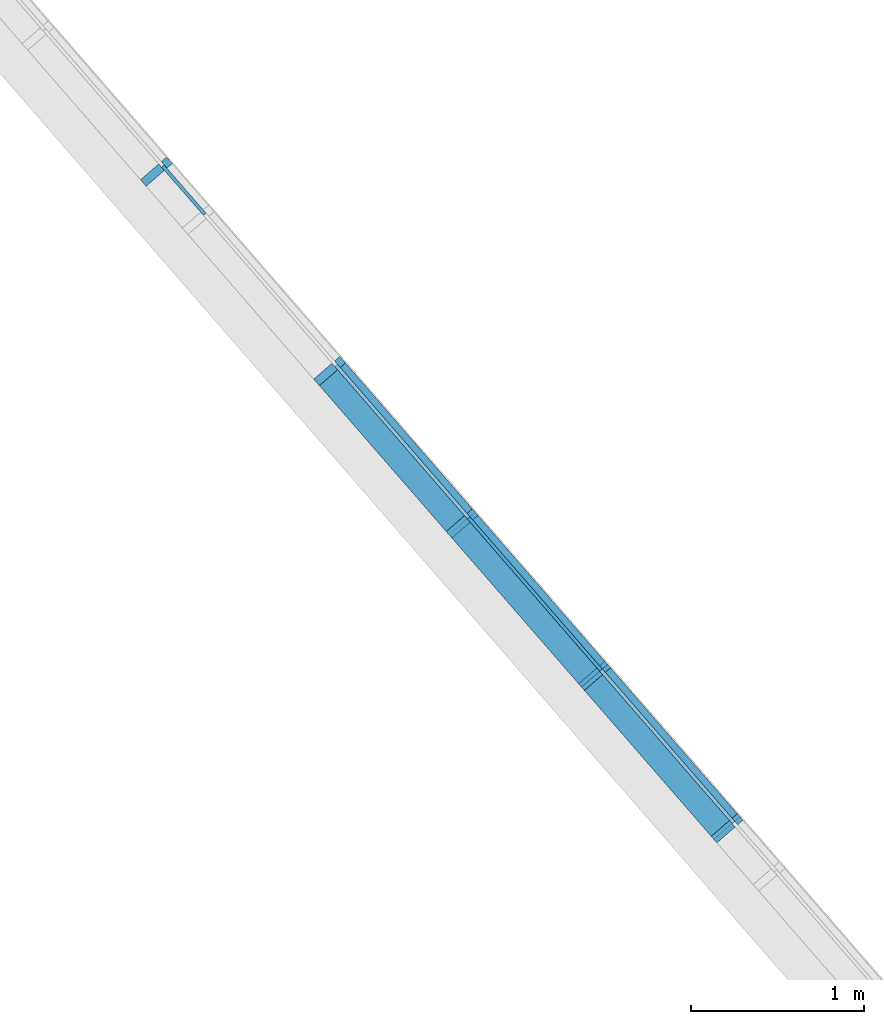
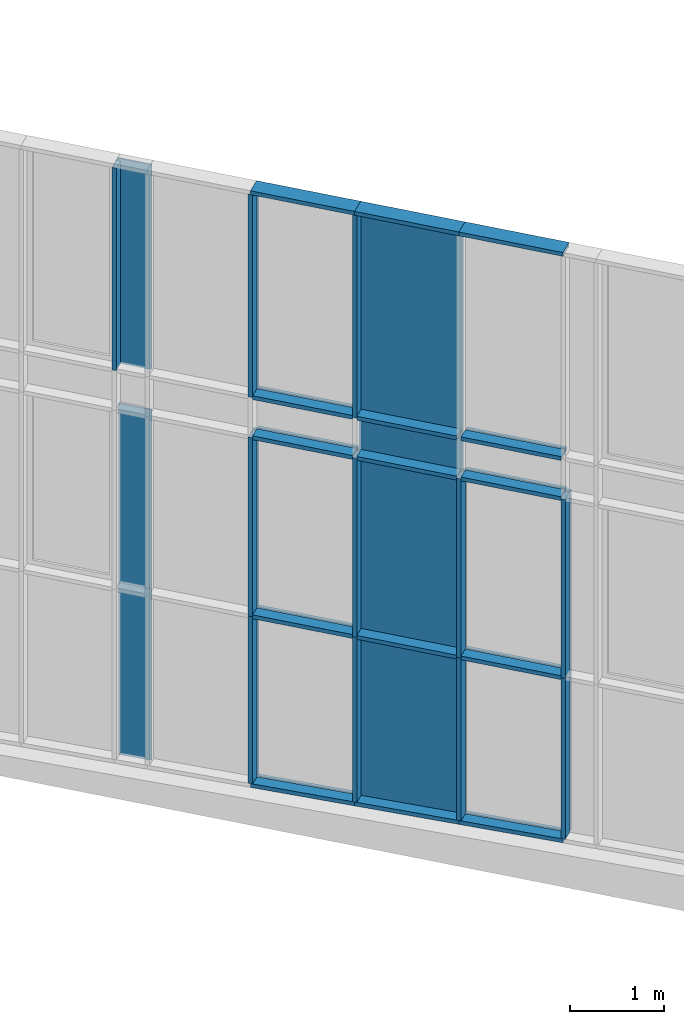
# One storey, part 50 of 390: 33 discrete accessories, 1 element without a shape of its own.
"""IFC2X3 building model written with IfcOpenShell, lengths in millimetres."""

from ifc_helpers import new_model, entity, si_unit, converted_unit, derived_unit, money_unit, direction, frame, origin_with_axes, place, context, subcontext, project, spatial, polyline, outline, extrude, clip, halfspace, material, material_list, type_object, element, aggregate, save


model = new_model("IFC2X3")

# Units and contexts
model_context = context("Model", 3, precision=1e-05, world=origin_with_axes(), true_north=direction((0.0, 1.0)))
body_context = subcontext(model_context, "Body", "Model", "MODEL_VIEW")
ifc_project = project(units=[si_unit("LENGTHUNIT", "METRE", prefix="MILLI"), si_unit("AREAUNIT", "SQUARE_METRE"), si_unit("VOLUMEUNIT", "CUBIC_METRE"), converted_unit("PLANEANGLEUNIT", "DEGREE", entity("IfcPlaneAngleMeasure", 0.0174532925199), si_unit("PLANEANGLEUNIT", "RADIAN"), dimensions=[0, 0, 0, 0, 0, 0, 0]), si_unit("SOLIDANGLEUNIT", "STERADIAN"), money_unit("EUR"), converted_unit("TIMEUNIT", "Year", entity("IfcTimeMeasure", 31556926.0), si_unit("TIMEUNIT", "SECOND"), dimensions=[0, 0, 1, 0, 0, 0, 0]), si_unit("MASSUNIT", "GRAM", prefix="KILO"), si_unit("THERMODYNAMICTEMPERATUREUNIT", "DEGREE_CELSIUS"), si_unit("LUMINOUSINTENSITYUNIT", "LUMEN"), si_unit("ENERGYUNIT", "JOULE", prefix="MEGA"), derived_unit("THERMALCONDUCTANCEUNIT", [(si_unit("POWERUNIT", "WATT"), 1), (si_unit("LENGTHUNIT", "METRE"), -1), (si_unit("THERMODYNAMICTEMPERATUREUNIT", "KELVIN"), -1)]), derived_unit("SPECIFICHEATCAPACITYUNIT", [(si_unit("ENERGYUNIT", "JOULE"), 1), (si_unit("MASSUNIT", "GRAM", prefix="KILO"), -1), (si_unit("THERMODYNAMICTEMPERATUREUNIT", "KELVIN"), -1)]), derived_unit("MASSDENSITYUNIT", [(si_unit("MASSUNIT", "GRAM", prefix="KILO"), 1), (si_unit("VOLUMEUNIT", "CUBIC_METRE"), -1)])], contexts=[model_context])

# Site, building, storey
site_placement = place(None, origin_with_axes())
site = spatial("IfcSite", under=ifc_project, at=site_placement, Name="Site", CompositionType="ELEMENT")
building_placement = place(site_placement, origin_with_axes())
building = spatial("IfcBuilding", under=site, at=building_placement, Name="Building", CompositionType="ELEMENT")
storey_placement = place(building_placement, origin_with_axes())
storey = spatial("IfcBuildingStorey", under=building, at=storey_placement, Name="1 korrus", CompositionType="ELEMENT", Elevation=0.0)

# Curtain wall, discrete accessories
curtain_wall_type = type_object("IfcCurtainWallType", Name="KLF-17", PredefinedType="NOTDEFINED")
curtain_wall_placement = place(storey_placement, frame((175630.823927, 104534.758561, -0.000216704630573), z_axis=(0.0, 0.0, 1.0), x_axis=(1.0, 0.0, 0.0)))
curtain_wall = element("IfcCurtainWall", 1, at=curtain_wall_placement, inside=storey, type_object=curtain_wall_type, Name="Klaasfassaad")
ifc_material_1 = material(Name="Klaas")
discrete_accessory_type_1 = type_object("IfcDiscreteAccessoryType", Name="370 x 2655 x 20")
discrete_accessory_1_placement = place(curtain_wall_placement, frame((-4667.85999126, 5369.75866329, 6577.50341211), z_axis=(0.0, 0.0, 1.0), x_axis=(-0.65605902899, 0.754709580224, 0.0)))
discrete_accessory_1 = element("IfcDiscreteAccessory", 2, at=discrete_accessory_1_placement, type_object=discrete_accessory_type_1, material=ifc_material_1, Name="KLF-17 klaaspakett", context=body_context, shape_type="SweptSolid", body=[
    extrude(outline(polyline([(-185.000030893, -1317.50318898), (184.999988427, -1317.50318898), (184.999988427, 1337.50319541), (-184.999991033, 1337.50319541), (-185.000030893, -1317.50318898)])), frame((0.0, -9.99999999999, 0.0), z_axis=(0.0, 1.0, 0.0), x_axis=(1.0, 0.0, 0.0)), (0.0, 0.0, 1.0), 20.0),
])
discrete_accessory_type_2 = type_object("IfcDiscreteAccessoryType", Name="1170 x 2655 x 20")
discrete_accessory_2_placement = place(curtain_wall_placement, frame((-2634.07700139, 3030.1589646, 6577.50341211), z_axis=(0.0, 0.0, 1.0), x_axis=(-0.65605902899, 0.754709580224, 0.0)))
discrete_accessory_2 = element("IfcDiscreteAccessory", 3, at=discrete_accessory_2_placement, type_object=discrete_accessory_type_2, material=ifc_material_1, Name="KLF-17 klaaspakett", context=body_context, shape_type="SweptSolid", body=[
    extrude(outline(polyline([(-585.000009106, -1317.50318898), (584.999988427, -1317.50318898), (584.999988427, 1337.50319541), (-585.000009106, 1337.50319541), (-585.000009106, -1317.50318898)])), frame((0.0, -9.99999999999, 0.0), z_axis=(0.0, 1.0, 0.0), x_axis=(1.0, 0.0, 0.0)), (0.0, 0.0, 1.0), 20.0000000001),
])
discrete_accessory_type_3 = type_object("IfcDiscreteAccessoryType", Name="1170 x 2169 x 20")
discrete_accessory_3_placement = place(curtain_wall_placement, frame((-2634.07700139, 3030.1589646, 1312.40184935), z_axis=(0.0, 0.0, 1.0), x_axis=(-0.65605902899, 0.754709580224, 0.0)))
discrete_accessory_3 = element("IfcDiscreteAccessory", 4, at=discrete_accessory_3_placement, type_object=discrete_accessory_type_3, material=ifc_material_1, Name="KLF-17 klaaspakett", context=body_context, shape_type="SweptSolid", body=[
    extrude(outline(polyline([(-585.000015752, -1087.59836735), (584.999993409, -1087.59836735), (584.999993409, 1081.24569991), (-584.999983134, 1053.94014949), (-585.000015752, -1087.59836735)])), frame((0.0, -9.99999999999, 0.0), z_axis=(0.0, 1.0, 0.0), x_axis=(1.0, 0.0, 0.0)), (0.0, 0.0, 1.0), 20.0),
])
discrete_accessory_type_4 = type_object("IfcDiscreteAccessoryType", Name="370 x 2232 x 20")
discrete_accessory_4_placement = place(curtain_wall_placement, frame((-4667.85999126, 5369.75866329, 1276.22756294), z_axis=(0.0, 0.0, 1.0), x_axis=(-0.65605902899, 0.754709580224, 0.0)))
discrete_accessory_4 = element("IfcDiscreteAccessory", 5, at=discrete_accessory_4_placement, type_object=discrete_accessory_type_4, material=ifc_material_1, Name="KLF-17 klaaspakett", context=body_context, shape_type="SweptSolid", body=[
    extrude(outline(polyline([(-185.000012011, -1123.77265948), (184.999985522, -1123.77265948), (184.999985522, 1108.08491039), (-184.999978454, 1099.44954982), (-185.000012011, -1123.77265948)])), frame((0.0, -9.99999999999, 0.0), z_axis=(0.0, 1.0, 0.0), x_axis=(1.0, 0.0, 0.0)), (0.0, 0.0, 1.0), 20.0),
])
discrete_accessory_type_5 = type_object("IfcDiscreteAccessoryType", Name="1170 x 2320 x 20")
discrete_accessory_5_placement = place(curtain_wall_placement, frame((-2634.07700139, 3030.1589646, 3560.0002167), z_axis=(0.0, 0.0, 1.0), x_axis=(-0.65605902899, 0.754709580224, 0.0)))
discrete_accessory_5 = element("IfcDiscreteAccessory", 6, at=discrete_accessory_5_placement, type_object=discrete_accessory_type_5, material=ifc_material_1, Name="KLF-17 klaaspakett", context=body_context, shape_type="SweptSolid", body=[
    extrude(outline(polyline([(-584.999996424, -1160.0), (585.000001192, -1160.0), (585.000001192, 1160.0), (-584.999996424, 1160.0), (-584.999996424, -1160.0)])), frame((0.0, -9.99999999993, 0.0), z_axis=(0.0, 1.0, 0.0), x_axis=(1.0, 0.0, 0.0)), (0.0, 0.0, 1.0), 20.0),
])
discrete_accessory_type_6 = type_object("IfcDiscreteAccessoryType", Name="370 x 2320 x 20")
discrete_accessory_6_placement = place(curtain_wall_placement, frame((-4667.85999126, 5369.75866329, 3560.0002167), z_axis=(0.0, 0.0, 1.0), x_axis=(-0.65605902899, 0.754709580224, 0.0)))
discrete_accessory_6 = element("IfcDiscreteAccessory", 7, at=discrete_accessory_6_placement, type_object=discrete_accessory_type_6, material=ifc_material_1, Name="KLF-17 klaaspakett", context=body_context, shape_type="SweptSolid", body=[
    extrude(outline(polyline([(-185.000014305, -1160.0), (185.000001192, -1160.0), (185.000001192, 1160.0), (-185.000014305, 1160.0), (-185.000014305, -1160.0)])), frame((0.0, -9.99999999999, 0.0), z_axis=(0.0, 1.0, 0.0), x_axis=(1.0, 0.0, 0.0)), (0.0, 0.0, 1.0), 20.0),
])
discrete_accessory_type_7 = type_object("IfcDiscreteAccessoryType", Name="1170 x 520 x 20")
discrete_accessory_7_placement = place(curtain_wall_placement, frame((-2634.07700139, 3030.1589646, 4980.0002167), z_axis=(0.0, 0.0, 1.0), x_axis=(-0.65605902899, 0.754709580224, 0.0)))
discrete_accessory_7 = element("IfcDiscreteAccessory", 8, at=discrete_accessory_7_placement, type_object=discrete_accessory_type_7, material=ifc_material_1, Name="KLF-17 klaaspakett", context=body_context, shape_type="SweptSolid", body=[
    extrude(outline(polyline([(-585.000006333, -259.999991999), (585.000006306, -260.000009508), (585.000006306, 260.0), (-585.000006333, 260.0), (-585.000006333, -259.999991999)])), frame((0.0, -9.99999999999, 0.0), z_axis=(0.0, 1.0, 0.0), x_axis=(1.0, 0.0, 0.0)), (0.0, 0.0, 1.0), 20.0),
])
ifc_material_2 = material(Name="Aluminium MUST")
ifc_material_list = material_list([ifc_material_2, ifc_material_2])
discrete_accessory_type_8 = type_object("IfcDiscreteAccessoryType", Name="50 x 200")
discrete_accessory_8_placement = place(curtain_wall_placement, frame((-4789.23091162, 5509.37993563, 5240.0002167), z_axis=(0.0, 0.0, 1.0), x_axis=(-0.65605902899, 0.754709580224, 0.0)))
discrete_accessory_8 = element("IfcDiscreteAccessory", 9, at=discrete_accessory_8_placement, type_object=discrete_accessory_type_8, material=ifc_material_list, Name="KLF-17 profiil", context=body_context, shape_type="SweptSolid", body=[
    extrude(outline(polyline([(-129.607912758, -79.5411148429), (-96.8049613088, -117.276593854), (8.8543799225, -25.4283297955), (-23.948571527, 12.3071492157), (-129.607912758, -79.5411148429)])), frame((0.0, 0.0, 0.0), z_axis=(0.0, 0.0, 1.0), x_axis=(-0.65605902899, -0.754709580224, 0.0)), (0.0, 0.0, 1.0), 2625.00639082),
    extrude(outline(polyline([(54.1369547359, 13.9352119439), (21.3340032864, 51.6706909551), (-8.8543799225, 25.4283297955), (23.948571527, -12.3071492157), (54.1369547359, 13.9352119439)])), frame((0.0, 0.0, 0.0), z_axis=(0.0, 0.0, 1.0), x_axis=(-0.65605902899, -0.754709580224, 0.0)), (0.0, 0.0, 1.0), 2625.00639082),
])
discrete_accessory_9_placement = place(curtain_wall_placement, frame((-3017.87153335, 3471.66406903, 5240.0002167), z_axis=(0.0, 0.0, 1.0), x_axis=(-0.65605902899, 0.754709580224, 0.0)))
discrete_accessory_9 = element("IfcDiscreteAccessory", 10, at=discrete_accessory_9_placement, type_object=discrete_accessory_type_8, material=ifc_material_list, Name="KLF-17 profiil", context=body_context, shape_type="SweptSolid", body=[
    extrude(outline(polyline([(-129.607912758, -79.5411148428), (-96.8049613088, -117.276593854), (8.8543799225, -25.4283297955), (-23.948571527, 12.3071492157), (-129.607912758, -79.5411148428)])), frame((0.0, 0.0, 0.0), z_axis=(0.0, 0.0, 1.0), x_axis=(-0.65605902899, -0.754709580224, 0.0)), (0.0, 0.0, 1.0), 2625.00639082),
    extrude(outline(polyline([(54.1369547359, 13.9352119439), (21.3340032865, 51.6706909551), (-8.8543799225, 25.4283297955), (23.948571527, -12.3071492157), (54.1369547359, 13.9352119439)])), frame((0.0, 0.0, 0.0), z_axis=(0.0, 0.0, 1.0), x_axis=(-0.65605902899, -0.754709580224, 0.0)), (0.0, 0.0, 1.0), 2625.00639082),
])
discrete_accessory_10_placement = place(curtain_wall_placement, frame((-3785.46059727, 4354.67427789, 5240.0002167), z_axis=(0.0, 0.0, 1.0), x_axis=(-0.65605902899, 0.754709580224, 0.0)))
discrete_accessory_10 = element("IfcDiscreteAccessory", 11, at=discrete_accessory_10_placement, type_object=discrete_accessory_type_8, material=ifc_material_list, Name="KLF-17 profiil", context=body_context, shape_type="SweptSolid", body=[
    extrude(outline(polyline([(-129.607912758, -79.5411148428), (-96.8049613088, -117.276593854), (8.8543799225, -25.4283297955), (-23.948571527, 12.3071492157), (-129.607912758, -79.5411148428)])), frame((0.0, 0.0, 0.0), z_axis=(0.0, 0.0, 1.0), x_axis=(-0.65605902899, -0.754709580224, 0.0)), (0.0, 0.0, 1.0), 2625.00639082),
    extrude(outline(polyline([(54.1369547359, 13.9352119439), (21.3340032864, 51.670690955), (-8.8543799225, 25.4283297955), (23.9485715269, -12.3071492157), (54.1369547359, 13.9352119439)])), frame((0.0, 0.0, 0.0), z_axis=(0.0, 0.0, 1.0), x_axis=(-0.65605902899, -0.754709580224, 0.0)), (0.0, 0.0, 1.0), 2625.00639082),
])
discrete_accessory_11_placement = place(curtain_wall_placement, frame((-2250.28246943, 2588.65386017, 7915.00660752), z_axis=(0.65605902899, -0.754709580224, 0.0), x_axis=(0.0, 0.0, 1.0)))
discrete_accessory_11 = element("IfcDiscreteAccessory", 12, at=discrete_accessory_11_placement, type_object=discrete_accessory_type_8, Name="KLF-17 profiil", context=body_context, shape_type="SweptSolid", body=[
    extrude(outline(polyline([(9.99999999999, 25.0), (-9.99999999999, 25.0), (-9.99999999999, 0.0), (9.99999999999, 0.0), (9.99999999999, 25.0)])), frame((0.0, 0.0, 0.0), z_axis=(0.0, 0.0, 1.0), x_axis=(0.0, 1.0, 0.0)), (0.0, 0.0, 1.0), 1170.0),
    extrude(outline(polyline([(150.0, 50.0), (9.99999999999, 50.0), (9.99999999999, 0.0), (150.0, 0.0), (150.0, 50.0)])), frame((0.0, 0.0, 0.0), z_axis=(0.0, 0.0, 1.0), x_axis=(0.0, 1.0, 0.0)), (0.0, 0.0, 1.0), 1170.0),
    extrude(outline(polyline([(-50.0, 0.0), (-9.99999999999, 0.0), (-9.99999999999, 50.0), (-50.0, 50.0), (-50.0, 0.0)])), frame((0.0, 0.0, 0.0), z_axis=(0.0, 0.0, 1.0), x_axis=(0.0, 1.0, 0.0)), (0.0, 0.0, 1.0), 1170.0),
])
discrete_accessory_12_placement = place(curtain_wall_placement, frame((-3017.87153335, 3471.66406903, 7915.00660752), z_axis=(0.65605902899, -0.754709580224, 0.0), x_axis=(0.0, 0.0, 1.0)))
discrete_accessory_12 = element("IfcDiscreteAccessory", 13, at=discrete_accessory_12_placement, type_object=discrete_accessory_type_8, Name="KLF-17 profiil", context=body_context, shape_type="SweptSolid", body=[
    extrude(outline(polyline([(10.0, 25.0), (-9.99999999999, 25.0), (-9.99999999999, 0.0), (10.0, 0.0), (10.0, 25.0)])), frame((0.0, 0.0, 0.0), z_axis=(0.0, 0.0, 1.0), x_axis=(0.0, 1.0, 0.0)), (0.0, 0.0, 1.0), 1170.0),
    extrude(outline(polyline([(150.0, 50.0), (10.0, 50.0), (10.0, 0.0), (150.0, 0.0), (150.0, 50.0)])), frame((0.0, 0.0, 0.0), z_axis=(0.0, 0.0, 1.0), x_axis=(0.0, 1.0, 0.0)), (0.0, 0.0, 1.0), 1170.0),
    extrude(outline(polyline([(-50.0, 0.0), (-9.99999999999, 0.0), (-9.99999999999, 50.0), (-50.0, 50.0), (-50.0, 0.0)])), frame((0.0, 0.0, 0.0), z_axis=(0.0, 0.0, 1.0), x_axis=(0.0, 1.0, 0.0)), (0.0, 0.0, 1.0), 1170.0),
])
discrete_accessory_13_placement = place(curtain_wall_placement, frame((-3785.46059727, 4354.67427789, 7915.00660752), z_axis=(0.65605902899, -0.754709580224, 0.0), x_axis=(0.0, 0.0, 1.0)))
discrete_accessory_13 = element("IfcDiscreteAccessory", 14, at=discrete_accessory_13_placement, type_object=discrete_accessory_type_8, Name="KLF-17 profiil", context=body_context, shape_type="SweptSolid", body=[
    extrude(outline(polyline([(10.0, 25.0), (-10.0, 25.0), (-10.0, 0.0), (10.0, 0.0), (10.0, 25.0)])), frame((0.0, 0.0, 0.0), z_axis=(0.0, 0.0, 1.0), x_axis=(0.0, 1.0, 0.0)), (0.0, 0.0, 1.0), 1170.0),
    extrude(outline(polyline([(150.0, 50.0), (10.0, 50.0), (10.0, 0.0), (150.0, 0.0), (150.0, 50.0)])), frame((0.0, 0.0, 0.0), z_axis=(0.0, 0.0, 1.0), x_axis=(0.0, 1.0, 0.0)), (0.0, 0.0, 1.0), 1170.0),
    extrude(outline(polyline([(-50.0, 0.0), (-10.0, 0.0), (-10.0, 50.0), (-50.0, 50.0), (-50.0, 0.0)])), frame((0.0, 0.0, 0.0), z_axis=(0.0, 0.0, 1.0), x_axis=(0.0, 1.0, 0.0)), (0.0, 0.0, 1.0), 1170.0),
])
discrete_accessory_14_placement = place(curtain_wall_placement, frame((-2250.28246943, 2588.65386017, 5240.0002167), z_axis=(0.65605902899, -0.754709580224, 0.0), x_axis=(0.0, 0.0, 1.0)))
discrete_accessory_14 = element("IfcDiscreteAccessory", 15, at=discrete_accessory_14_placement, type_object=discrete_accessory_type_8, material=ifc_material_list, Name="KLF-17 profiil", context=body_context, shape_type="SweptSolid", body=[
    extrude(outline(polyline([(150.0, -25.0), (150.0, 25.0), (9.99999999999, 25.0), (9.99999999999, -25.0), (150.0, -25.0)])), frame((0.0, 0.0, 25.0), z_axis=(0.0, 0.0, 1.0), x_axis=(0.0, 1.0, 0.0)), (0.0, 0.0, 1.0), 1120.0),
    extrude(outline(polyline([(-50.0, 25.0), (-50.0, -25.0), (-10.0, -25.0), (-10.0, 25.0), (-50.0, 25.0)])), frame((0.0, 0.0, 25.0), z_axis=(0.0, 0.0, 1.0), x_axis=(0.0, 1.0, 0.0)), (0.0, 0.0, 1.0), 1120.0),
])
discrete_accessory_15_placement = place(curtain_wall_placement, frame((-3017.87153335, 3471.66406903, 5240.0002167), z_axis=(0.65605902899, -0.754709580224, 0.0), x_axis=(0.0, 0.0, 1.0)))
discrete_accessory_15 = element("IfcDiscreteAccessory", 16, at=discrete_accessory_15_placement, type_object=discrete_accessory_type_8, material=ifc_material_list, Name="KLF-17 profiil", context=body_context, shape_type="SweptSolid", body=[
    extrude(outline(polyline([(150.0, -25.0), (150.0, 25.0), (10.0, 25.0), (10.0, -25.0), (150.0, -25.0)])), frame((0.0, 0.0, 25.0), z_axis=(0.0, 0.0, 1.0), x_axis=(0.0, 1.0, 0.0)), (0.0, 0.0, 1.0), 1120.0),
    extrude(outline(polyline([(-49.9999999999, 25.0), (-49.9999999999, -25.0), (-9.99999999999, -25.0), (-9.99999999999, 25.0), (-49.9999999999, 25.0)])), frame((0.0, 0.0, 25.0), z_axis=(0.0, 0.0, 1.0), x_axis=(0.0, 1.0, 0.0)), (0.0, 0.0, 1.0), 1120.0),
])
discrete_accessory_16_placement = place(curtain_wall_placement, frame((-3785.46059727, 4354.67427789, 5240.0002167), z_axis=(0.65605902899, -0.754709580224, 0.0), x_axis=(0.0, 0.0, 1.0)))
discrete_accessory_16 = element("IfcDiscreteAccessory", 17, at=discrete_accessory_16_placement, type_object=discrete_accessory_type_8, material=ifc_material_list, Name="KLF-17 profiil", context=body_context, shape_type="SweptSolid", body=[
    extrude(outline(polyline([(150.0, -25.0), (150.0, 25.0), (9.99999999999, 25.0), (9.99999999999, -25.0), (150.0, -25.0)])), frame((0.0, 0.0, 25.0), z_axis=(0.0, 0.0, 1.0), x_axis=(0.0, 1.0, 0.0)), (0.0, 0.0, 1.0), 1120.0),
    extrude(outline(polyline([(-50.0, 25.0), (-50.0, -25.0), (-9.99999999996, -25.0), (-9.99999999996, 25.0), (-50.0, 25.0)])), frame((0.0, 0.0, 25.0), z_axis=(0.0, 0.0, 1.0), x_axis=(0.0, 1.0, 0.0)), (0.0, 0.0, 1.0), 1120.0),
])
discrete_accessory_17_placement = place(curtain_wall_placement, frame((-3785.46059727, 4354.67427789, 183.844854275), z_axis=(0.655880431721, -0.754504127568, 0.0233319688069), x_axis=(-0.0153071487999, 0.0176088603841, 0.999727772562)))
discrete_accessory_17 = element("IfcDiscreteAccessory", 18, at=discrete_accessory_17_placement, type_object=discrete_accessory_type_8, Name="KLF-17 profiil", context=body_context, shape_type="SweptSolid", body=[
    extrude(outline(polyline([(10.0, -25.0), (9.99999999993, 0.0), (-10.0, 0.0), (-10.0, -25.0), (10.0, -25.0)])), frame((0.0, 0.0, -3.80645914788e-06), z_axis=(0.0, 0.0, 1.0), x_axis=(0.0, 1.0, 0.0)), (0.0, 0.0, 1.0), 1170.31860209),
    extrude(outline(polyline([(150.0, -50.0), (150.0, 0.0), (9.99999999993, 0.0), (9.99999999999, -50.0), (150.0, -50.0)])), frame((0.0, 0.0, -3.80645914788e-06), z_axis=(0.0, 0.0, 1.0), x_axis=(0.0, 1.0, 0.0)), (0.0, 0.0, 1.0), 1170.31860209),
    extrude(outline(polyline([(-50.0, 0.0), (-50.0, -50.0), (-9.99999999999, -50.0), (-10.0, 0.0), (-50.0, 0.0)])), frame((0.0, 0.0, -3.80645914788e-06), z_axis=(0.0, 0.0, 1.0), x_axis=(0.0, 1.0, 0.0)), (0.0, 0.0, 1.0), 1170.31860209),
])
discrete_accessory_18_placement = place(curtain_wall_placement, frame((-3785.46059727, 4354.67427789, 183.844854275), z_axis=(0.0, 0.0, 1.0), x_axis=(-0.65605902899, 0.754709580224, 0.0)))
discrete_accessory_18 = element("IfcDiscreteAccessory", 19, at=discrete_accessory_18_placement, type_object=discrete_accessory_type_8, material=ifc_material_list, Name="KLF-17 profiil", context=body_context, shape_type="Clipping", body=[
    clip(extrude(outline(polyline([(-129.607912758, -79.5411148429), (-96.8049613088, -117.276593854), (8.85437992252, -25.4283297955), (-23.948571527, 12.3071492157), (-129.607912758, -79.5411148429)])), frame((0.0, 0.0, 49.4301606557), z_axis=(0.0, 0.0, 1.0), x_axis=(-0.65605902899, -0.754709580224, 0.0)), (0.0, 0.0, 1.0), 2166.72520177), halfspace(frame((1.16659082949, 0.0, 49.9863888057), z_axis=(0.0233318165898, 0.0, 0.999727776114), x_axis=(0.0, -1.0, 0.0)), True)),
    clip(extrude(outline(polyline([(54.1369547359, 13.9352119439), (21.3340032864, 51.6706909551), (-8.8543799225, 25.4283297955), (23.948571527, -12.3071492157), (54.1369547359, 13.9352119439)])), frame((0.0, 0.0, 49.4301606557), z_axis=(0.0, 0.0, 1.0), x_axis=(-0.65605902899, -0.754709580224, 0.0)), (0.0, 0.0, 1.0), 2166.72520177), halfspace(frame((1.16659082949, 0.0, 49.9863888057), z_axis=(0.0233318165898, 0.0, 0.999727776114), x_axis=(0.0, -1.0, 0.0)), True)),
])
discrete_accessory_19_placement = place(curtain_wall_placement, frame((-2250.28246943, 2588.65386017, 238.456272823), z_axis=(0.655880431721, -0.754504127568, 0.0233319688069), x_axis=(-0.0153071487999, 0.0176088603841, 0.999727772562)))
discrete_accessory_19 = element("IfcDiscreteAccessory", 20, at=discrete_accessory_19_placement, type_object=discrete_accessory_type_8, Name="KLF-17 profiil", context=body_context, shape_type="SweptSolid", body=[
    extrude(outline(polyline([(9.99999999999, -25.0), (9.99999999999, 0.0), (-9.99999999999, 0.0), (-9.99999999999, -25.0), (9.99999999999, -25.0)])), frame((0.0, 0.0, -5.45125544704e-06), z_axis=(0.0, 0.0, 1.0), x_axis=(0.0, 1.0, 0.0)), (0.0, 0.0, 1.0), 1170.31860491),
    extrude(outline(polyline([(150.0, -50.0), (150.0, 0.0), (9.99999999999, 0.0), (9.99999999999, -50.0), (150.0, -50.0)])), frame((0.0, 0.0, -5.45125544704e-06), z_axis=(0.0, 0.0, 1.0), x_axis=(0.0, 1.0, 0.0)), (0.0, 0.0, 1.0), 1170.31860491),
    extrude(outline(polyline([(-50.0, 0.0), (-50.0, -50.0), (-10.0, -50.0), (-9.99999999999, 0.0), (-50.0, 0.0)])), frame((0.0, 0.0, -5.45125544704e-06), z_axis=(0.0, 0.0, 1.0), x_axis=(0.0, 1.0, 0.0)), (0.0, 0.0, 1.0), 1170.31860491),
])
discrete_accessory_20_placement = place(curtain_wall_placement, frame((-3017.87153335, 3471.66406903, 211.150691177), z_axis=(0.0, 0.0, 1.0), x_axis=(-0.65605902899, 0.754709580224, 0.0)))
discrete_accessory_20 = element("IfcDiscreteAccessory", 21, at=discrete_accessory_20_placement, type_object=discrete_accessory_type_8, material=ifc_material_list, Name="KLF-17 profiil", context=body_context, shape_type="Clipping", body=[
    clip(extrude(outline(polyline([(-129.607912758, -79.5411148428), (-96.8049613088, -117.276593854), (8.8543799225, -25.4283297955), (-23.948571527, 12.3071492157), (-129.607912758, -79.5411148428)])), frame((0.0, 0.0, 49.4301570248), z_axis=(0.0, 0.0, 1.0), x_axis=(-0.65605902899, -0.754709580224, 0.0)), (0.0, 0.0, 1.0), 2139.4193685), halfspace(frame((1.16659844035, 0.0, 49.9863886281), z_axis=(0.0233319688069, 0.0, 0.999727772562), x_axis=(0.0, -1.0, 0.0)), True)),
    clip(extrude(outline(polyline([(54.1369547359, 13.9352119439), (21.3340032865, 51.6706909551), (-8.8543799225, 25.4283297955), (23.948571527, -12.3071492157), (54.1369547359, 13.9352119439)])), frame((0.0, 0.0, 49.4301570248), z_axis=(0.0, 0.0, 1.0), x_axis=(-0.65605902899, -0.754709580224, 0.0)), (0.0, 0.0, 1.0), 2139.4193685), halfspace(frame((1.16659844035, 0.0, 49.9863886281), z_axis=(0.0233319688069, 0.0, 0.999727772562), x_axis=(0.0, -1.0, 0.0)), True)),
])
discrete_accessory_21_placement = place(curtain_wall_placement, frame((-2250.28246943, 2588.65386017, 238.456272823), z_axis=(0.0, 0.0, 1.0), x_axis=(-0.65605902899, 0.754709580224, 0.0)))
discrete_accessory_21 = element("IfcDiscreteAccessory", 22, at=discrete_accessory_21_placement, type_object=discrete_accessory_type_8, material=ifc_material_list, Name="KLF-17 profiil", context=body_context, shape_type="Clipping", body=[
    clip(extrude(outline(polyline([(-129.607912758, -79.5411148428), (-96.8049613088, -117.276593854), (8.8543799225, -25.4283297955), (-23.948571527, 12.3071492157), (-129.607912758, -79.5411148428)])), frame((0.0, 0.0, 49.4301622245), z_axis=(0.0, 0.0, 1.0), x_axis=(-0.65605902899, -0.754709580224, 0.0)), (0.0, 0.0, 1.0), 2112.11378166), halfspace(frame((1.16658754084, 0.0, 49.9863888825), z_axis=(0.0233317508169, 0.0, 0.999727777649), x_axis=(0.0, -1.0, 0.0)), True)),
    clip(extrude(outline(polyline([(54.1369547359, 13.9352119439), (21.3340032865, 51.6706909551), (-8.85437992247, 25.4283297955), (23.948571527, -12.3071492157), (54.1369547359, 13.9352119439)])), frame((0.0, 0.0, 49.4301622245), z_axis=(0.0, 0.0, 1.0), x_axis=(-0.65605902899, -0.754709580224, 0.0)), (0.0, 0.0, 1.0), 2112.11378166), halfspace(frame((1.16658754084, 0.0, 49.9863888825), z_axis=(0.0233317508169, 0.0, 0.999727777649), x_axis=(0.0, -1.0, 0.0)), True)),
])
discrete_accessory_22_placement = place(curtain_wall_placement, frame((-1482.69340552, 1705.64365131, 265.762109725), z_axis=(0.0, 0.0, 1.0), x_axis=(-0.65605902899, 0.754709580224, 0.0)))
discrete_accessory_22 = element("IfcDiscreteAccessory", 23, at=discrete_accessory_22_placement, type_object=discrete_accessory_type_8, material=ifc_material_list, Name="KLF-17 profiil", context=body_context, shape_type="Clipping", body=[
    clip(extrude(outline(polyline([(-129.607912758, -79.5411148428), (-96.8049613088, -117.276593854), (8.85437992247, -25.4283297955), (-23.948571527, 12.3071492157), (-129.607912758, -79.5411148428)])), frame((0.0, 0.0, 49.4301570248), z_axis=(0.0, 0.0, 1.0), x_axis=(-0.65605902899, -0.754709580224, 0.0)), (0.0, 0.0, 1.0), 2084.80794996), halfspace(frame((1.16659844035, 0.0, 49.9863886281), z_axis=(0.0233319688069, 0.0, 0.999727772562), x_axis=(0.0, -1.0, 0.0)), True)),
    clip(extrude(outline(polyline([(54.1369547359, 13.9352119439), (21.3340032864, 51.6706909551), (-8.85437992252, 25.4283297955), (23.948571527, -12.3071492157), (54.1369547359, 13.9352119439)])), frame((0.0, 0.0, 49.4301570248), z_axis=(0.0, 0.0, 1.0), x_axis=(-0.65605902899, -0.754709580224, 0.0)), (0.0, 0.0, 1.0), 2084.80794996), halfspace(frame((1.16659844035, 0.0, 49.9863886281), z_axis=(0.0233319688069, 0.0, 0.999727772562), x_axis=(0.0, -1.0, 0.0)), True)),
])
discrete_accessory_23_placement = place(curtain_wall_placement, frame((-1482.69340552, 1705.64365131, 2400.0002167), z_axis=(0.0, 0.0, 1.0), x_axis=(-0.65605902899, 0.754709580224, 0.0)))
discrete_accessory_23 = element("IfcDiscreteAccessory", 24, at=discrete_accessory_23_placement, type_object=discrete_accessory_type_8, material=ifc_material_list, Name="KLF-17 profiil", context=body_context, shape_type="SweptSolid", body=[
    extrude(outline(polyline([(-129.607912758, -79.5411148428), (-96.8049613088, -117.276593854), (8.85437992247, -25.4283297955), (-23.948571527, 12.3071492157), (-129.607912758, -79.5411148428)])), frame((0.0, 0.0, 0.0), z_axis=(0.0, 0.0, 1.0), x_axis=(-0.65605902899, -0.754709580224, 0.0)), (0.0, 0.0, 1.0), 2320.0),
    extrude(outline(polyline([(54.1369547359, 13.9352119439), (21.3340032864, 51.6706909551), (-8.85437992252, 25.4283297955), (23.948571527, -12.3071492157), (54.1369547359, 13.9352119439)])), frame((0.0, 0.0, 0.0), z_axis=(0.0, 0.0, 1.0), x_axis=(-0.65605902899, -0.754709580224, 0.0)), (0.0, 0.0, 1.0), 2320.0),
])
discrete_accessory_24_placement = place(curtain_wall_placement, frame((-2250.28246943, 2588.65386017, 4720.0002167), z_axis=(0.65605902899, -0.754709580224, 0.0), x_axis=(0.0, 0.0, 1.0)))
discrete_accessory_24 = element("IfcDiscreteAccessory", 25, at=discrete_accessory_24_placement, type_object=discrete_accessory_type_8, material=ifc_material_list, Name="KLF-17 profiil", context=body_context, shape_type="SweptSolid", body=[
    extrude(outline(polyline([(150.0, -25.0), (150.0, 25.0), (9.99999999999, 25.0), (9.99999999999, -25.0), (150.0, -25.0)])), frame((0.0, 0.0, 25.0), z_axis=(0.0, 0.0, 1.0), x_axis=(0.0, 1.0, 0.0)), (0.0, 0.0, 1.0), 1120.0),
    extrude(outline(polyline([(-50.0, 25.0), (-50.0, -25.0), (-10.0, -25.0), (-10.0, 25.0), (-50.0, 25.0)])), frame((0.0, 0.0, 25.0), z_axis=(0.0, 0.0, 1.0), x_axis=(0.0, 1.0, 0.0)), (0.0, 0.0, 1.0), 1120.0),
])
discrete_accessory_25_placement = place(curtain_wall_placement, frame((-3017.87153335, 3471.66406903, 4720.0002167), z_axis=(0.65605902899, -0.754709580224, 0.0), x_axis=(0.0, 0.0, 1.0)))
discrete_accessory_25 = element("IfcDiscreteAccessory", 26, at=discrete_accessory_25_placement, type_object=discrete_accessory_type_8, material=ifc_material_list, Name="KLF-17 profiil", context=body_context, shape_type="SweptSolid", body=[
    extrude(outline(polyline([(150.0, -25.0), (150.0, 25.0), (10.0, 25.0), (10.0, -25.0), (150.0, -25.0)])), frame((0.0, 0.0, 25.0), z_axis=(0.0, 0.0, 1.0), x_axis=(0.0, 1.0, 0.0)), (0.0, 0.0, 1.0), 1120.0),
    extrude(outline(polyline([(-49.9999999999, 25.0), (-49.9999999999, -25.0), (-9.99999999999, -25.0), (-9.99999999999, 25.0), (-49.9999999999, 25.0)])), frame((0.0, 0.0, 25.0), z_axis=(0.0, 0.0, 1.0), x_axis=(0.0, 1.0, 0.0)), (0.0, 0.0, 1.0), 1120.0),
])
discrete_accessory_26_placement = place(curtain_wall_placement, frame((-3785.46059727, 4354.67427789, 4720.0002167), z_axis=(0.65605902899, -0.754709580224, 0.0), x_axis=(0.0, 0.0, 1.0)))
discrete_accessory_26 = element("IfcDiscreteAccessory", 27, at=discrete_accessory_26_placement, type_object=discrete_accessory_type_8, material=ifc_material_list, Name="KLF-17 profiil", context=body_context, shape_type="SweptSolid", body=[
    extrude(outline(polyline([(150.0, -25.0), (150.0, 25.0), (9.99999999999, 25.0), (9.99999999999, -25.0), (150.0, -25.0)])), frame((0.0, 0.0, 25.0), z_axis=(0.0, 0.0, 1.0), x_axis=(0.0, 1.0, 0.0)), (0.0, 0.0, 1.0), 1120.0),
    extrude(outline(polyline([(-50.0, 25.0), (-50.0, -25.0), (-9.99999999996, -25.0), (-9.99999999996, 25.0), (-50.0, 25.0)])), frame((0.0, 0.0, 25.0), z_axis=(0.0, 0.0, 1.0), x_axis=(0.0, 1.0, 0.0)), (0.0, 0.0, 1.0), 1120.0),
])
discrete_accessory_27_placement = place(curtain_wall_placement, frame((-3785.46059727, 4354.67427789, 2400.0002167), z_axis=(0.65605902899, -0.754709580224, 0.0), x_axis=(0.0, 0.0, 1.0)))
discrete_accessory_27 = element("IfcDiscreteAccessory", 28, at=discrete_accessory_27_placement, type_object=discrete_accessory_type_8, material=ifc_material_list, Name="KLF-17 profiil", context=body_context, shape_type="SweptSolid", body=[
    extrude(outline(polyline([(150.0, -25.0), (150.0, 25.0), (10.0, 25.0), (10.0, -25.0), (150.0, -25.0)])), frame((0.0, 0.0, 25.0), z_axis=(0.0, 0.0, 1.0), x_axis=(0.0, 1.0, 0.0)), (0.0, 0.0, 1.0), 1120.0),
    extrude(outline(polyline([(-50.0, 25.0), (-50.0, -25.0), (-9.99999999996, -25.0), (-9.99999999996, 25.0), (-50.0, 25.0)])), frame((0.0, 0.0, 25.0), z_axis=(0.0, 0.0, 1.0), x_axis=(0.0, 1.0, 0.0)), (0.0, 0.0, 1.0), 1120.0),
])
discrete_accessory_28_placement = place(curtain_wall_placement, frame((-3017.87153335, 3471.66406903, 2400.0002167), z_axis=(0.65605902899, -0.754709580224, 0.0), x_axis=(0.0, 0.0, 1.0)))
discrete_accessory_28 = element("IfcDiscreteAccessory", 29, at=discrete_accessory_28_placement, type_object=discrete_accessory_type_8, material=ifc_material_list, Name="KLF-17 profiil", context=body_context, shape_type="SweptSolid", body=[
    extrude(outline(polyline([(150.0, -25.0), (150.0, 25.0), (10.0, 25.0), (10.0, -25.0), (150.0, -25.0)])), frame((0.0, 0.0, 25.0), z_axis=(0.0, 0.0, 1.0), x_axis=(0.0, 1.0, 0.0)), (0.0, 0.0, 1.0), 1120.0),
    extrude(outline(polyline([(-49.9999999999, 25.0), (-49.9999999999, -25.0), (-9.99999999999, -25.0), (-9.99999999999, 25.0), (-49.9999999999, 25.0)])), frame((0.0, 0.0, 25.0), z_axis=(0.0, 0.0, 1.0), x_axis=(0.0, 1.0, 0.0)), (0.0, 0.0, 1.0), 1120.0),
])
discrete_accessory_29_placement = place(curtain_wall_placement, frame((-2250.28246943, 2588.65386017, 2400.0002167), z_axis=(0.65605902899, -0.754709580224, 0.0), x_axis=(0.0, 0.0, 1.0)))
discrete_accessory_29 = element("IfcDiscreteAccessory", 30, at=discrete_accessory_29_placement, type_object=discrete_accessory_type_8, material=ifc_material_list, Name="KLF-17 profiil", context=body_context, shape_type="SweptSolid", body=[
    extrude(outline(polyline([(150.0, -25.0), (150.0, 25.0), (9.99999999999, 25.0), (9.99999999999, -25.0), (150.0, -25.0)])), frame((0.0, 0.0, 25.0), z_axis=(0.0, 0.0, 1.0), x_axis=(0.0, 1.0, 0.0)), (0.0, 0.0, 1.0), 1120.0),
    extrude(outline(polyline([(-50.0, 25.0), (-50.0, -25.0), (-10.0, -25.0), (-10.0, 25.0), (-50.0, 25.0)])), frame((0.0, 0.0, 25.0), z_axis=(0.0, 0.0, 1.0), x_axis=(0.0, 1.0, 0.0)), (0.0, 0.0, 1.0), 1120.0),
])
discrete_accessory_30_placement = place(curtain_wall_placement, frame((-3785.46059727, 4354.67427789, 2400.0002167), z_axis=(0.0, 0.0, 1.0), x_axis=(-0.65605902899, 0.754709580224, 0.0)))
discrete_accessory_30 = element("IfcDiscreteAccessory", 31, at=discrete_accessory_30_placement, type_object=discrete_accessory_type_8, material=ifc_material_list, Name="KLF-17 profiil", context=body_context, shape_type="SweptSolid", body=[
    extrude(outline(polyline([(-129.607912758, -79.5411148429), (-96.8049613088, -117.276593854), (8.85437992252, -25.4283297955), (-23.948571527, 12.3071492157), (-129.607912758, -79.5411148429)])), frame((0.0, 0.0, 0.0), z_axis=(0.0, 0.0, 1.0), x_axis=(-0.65605902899, -0.754709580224, 0.0)), (0.0, 0.0, 1.0), 2320.0),
    extrude(outline(polyline([(54.1369547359, 13.9352119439), (21.3340032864, 51.6706909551), (-8.8543799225, 25.4283297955), (23.948571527, -12.3071492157), (54.1369547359, 13.9352119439)])), frame((0.0, 0.0, 0.0), z_axis=(0.0, 0.0, 1.0), x_axis=(-0.65605902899, -0.754709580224, 0.0)), (0.0, 0.0, 1.0), 2320.0),
])
discrete_accessory_31_placement = place(curtain_wall_placement, frame((-3017.87153335, 3471.66406903, 2400.0002167), z_axis=(0.0, 0.0, 1.0), x_axis=(-0.65605902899, 0.754709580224, 0.0)))
discrete_accessory_31 = element("IfcDiscreteAccessory", 32, at=discrete_accessory_31_placement, type_object=discrete_accessory_type_8, material=ifc_material_list, Name="KLF-17 profiil", context=body_context, shape_type="SweptSolid", body=[
    extrude(outline(polyline([(-129.607912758, -79.5411148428), (-96.8049613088, -117.276593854), (8.8543799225, -25.4283297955), (-23.948571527, 12.3071492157), (-129.607912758, -79.5411148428)])), frame((0.0, 0.0, 0.0), z_axis=(0.0, 0.0, 1.0), x_axis=(-0.65605902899, -0.754709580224, 0.0)), (0.0, 0.0, 1.0), 2320.0),
    extrude(outline(polyline([(54.1369547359, 13.9352119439), (21.3340032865, 51.6706909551), (-8.8543799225, 25.4283297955), (23.948571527, -12.3071492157), (54.1369547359, 13.9352119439)])), frame((0.0, 0.0, 0.0), z_axis=(0.0, 0.0, 1.0), x_axis=(-0.65605902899, -0.754709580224, 0.0)), (0.0, 0.0, 1.0), 2320.0),
])
discrete_accessory_32_placement = place(curtain_wall_placement, frame((-2250.28246943, 2588.65386017, 2400.0002167), z_axis=(0.0, 0.0, 1.0), x_axis=(-0.65605902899, 0.754709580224, 0.0)))
discrete_accessory_32 = element("IfcDiscreteAccessory", 33, at=discrete_accessory_32_placement, type_object=discrete_accessory_type_8, material=ifc_material_list, Name="KLF-17 profiil", context=body_context, shape_type="SweptSolid", body=[
    extrude(outline(polyline([(-129.607912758, -79.5411148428), (-96.8049613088, -117.276593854), (8.8543799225, -25.4283297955), (-23.9485715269, 12.3071492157), (-129.607912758, -79.5411148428)])), frame((0.0, 0.0, 0.0), z_axis=(0.0, 0.0, 1.0), x_axis=(-0.65605902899, -0.754709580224, 0.0)), (0.0, 0.0, 1.0), 2320.0),
    extrude(outline(polyline([(54.1369547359, 13.9352119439), (21.3340032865, 51.6706909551), (-8.8543799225, 25.4283297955), (23.948571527, -12.3071492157), (54.1369547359, 13.9352119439)])), frame((0.0, 0.0, 0.0), z_axis=(0.0, 0.0, 1.0), x_axis=(-0.65605902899, -0.754709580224, 0.0)), (0.0, 0.0, 1.0), 2320.0),
])
discrete_accessory_33_placement = place(curtain_wall_placement, frame((-3017.87153335, 3471.66406903, 211.150691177), z_axis=(0.655880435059, -0.754504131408, 0.0233317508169), x_axis=(-0.0153070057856, 0.0176086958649, 0.999727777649)))
discrete_accessory_33 = element("IfcDiscreteAccessory", 34, at=discrete_accessory_33_placement, type_object=discrete_accessory_type_8, Name="KLF-17 profiil", context=body_context, shape_type="SweptSolid", body=[
    extrude(outline(polyline([(10.0, -25.0), (9.99999999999, 0.0), (-9.99999999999, 0.0), (-9.99999999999, -25.0), (10.0, -25.0)])), frame((0.0, 0.0, -5.45122347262e-06), z_axis=(0.0, 0.0, 1.0), x_axis=(0.0, 1.0, 0.0)), (0.0, 0.0, 1.0), 1170.31859778),
    extrude(outline(polyline([(150.0, -50.0), (150.0, 0.0), (9.99999999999, 0.0), (9.99999999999, -50.0), (150.0, -50.0)])), frame((0.0, 0.0, -5.45123768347e-06), z_axis=(0.0, 0.0, 1.0), x_axis=(0.0, 1.0, 0.0)), (0.0, 0.0, 1.0), 1170.31859778),
    extrude(outline(polyline([(-49.9999999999, 0.0), (-49.9999999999, -50.0), (-9.99999999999, -50.0), (-9.99999999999, 0.0), (-49.9999999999, 0.0)])), frame((0.0, 0.0, -5.45123768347e-06), z_axis=(0.0, 0.0, 1.0), x_axis=(0.0, 1.0, 0.0)), (0.0, 0.0, 1.0), 1170.31859778),
])
aggregate(curtain_wall, [discrete_accessory_1, discrete_accessory_2, discrete_accessory_3, discrete_accessory_4, discrete_accessory_6, discrete_accessory_5, discrete_accessory_7, discrete_accessory_8, discrete_accessory_9, discrete_accessory_10, discrete_accessory_11, discrete_accessory_12, discrete_accessory_13, discrete_accessory_14, discrete_accessory_15, discrete_accessory_16, discrete_accessory_17, discrete_accessory_18, discrete_accessory_19, discrete_accessory_20, discrete_accessory_21, discrete_accessory_22, discrete_accessory_23, discrete_accessory_24, discrete_accessory_25, discrete_accessory_26, discrete_accessory_27, discrete_accessory_28, discrete_accessory_29, discrete_accessory_30, discrete_accessory_31, discrete_accessory_32, discrete_accessory_33])

save(model, "model.ifc")
